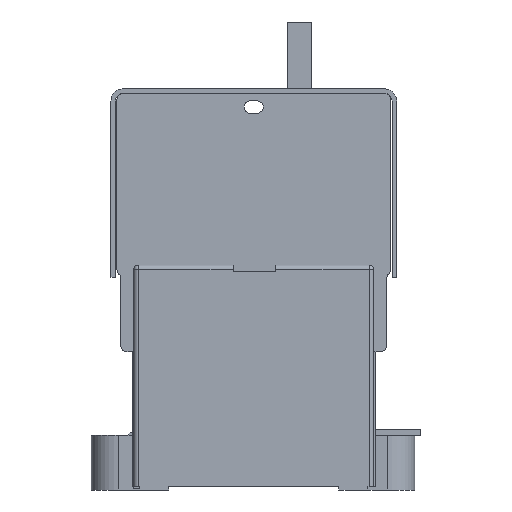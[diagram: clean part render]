
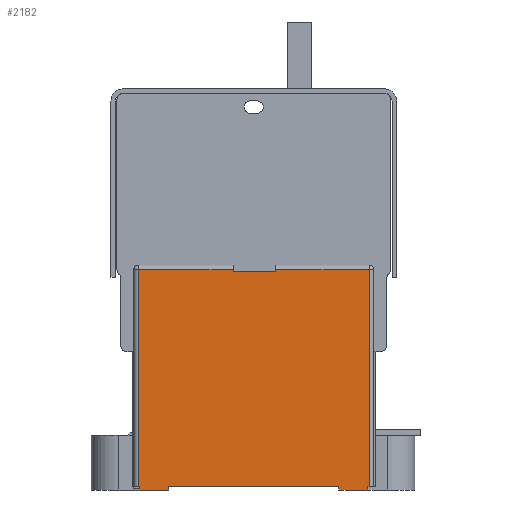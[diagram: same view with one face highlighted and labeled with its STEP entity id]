
A CAD part, left-side view. The second image highlights one B-rep face of the part: STEP entity #2182.
In plain terms, the highlighted planar face has unit normal (-1, 0, 0).
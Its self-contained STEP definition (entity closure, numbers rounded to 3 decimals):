
#810=PLANE('',#23454);
#2182=ADVANCED_FACE('',(#3589),#810,.F.);
#3589=FACE_OUTER_BOUND('',#4877,.T.);
#4877=EDGE_LOOP('',(#15154,#15155,#15156,#15157,#15158,#15159,#15160,#15161,
#15162,#15163,#15164,#15165,#15166,#15167,#15168,#15169));
#6884=LINE('',#35095,#9192);
#6886=LINE('',#35101,#9194);
#6956=LINE('',#35413,#9264);
#6972=LINE('',#35493,#9280);
#7007=LINE('',#35592,#9315);
#7012=LINE('',#35604,#9320);
#7014=LINE('',#35607,#9322);
#7020=LINE('',#35620,#9328);
#7159=LINE('',#35910,#9467);
#7160=LINE('',#35914,#9468);
#7161=LINE('',#35915,#9469);
#7162=LINE('',#35917,#9470);
#7163=LINE('',#35919,#9471);
#7164=LINE('',#35920,#9472);
#7165=LINE('',#35921,#9473);
#7166=LINE('',#35923,#9474);
#9192=VECTOR('',#28391,1.);
#9194=VECTOR('',#28397,1.);
#9264=VECTOR('',#28685,1.);
#9280=VECTOR('',#28797,1.);
#9315=VECTOR('',#28902,1.);
#9320=VECTOR('',#28909,1.);
#9322=VECTOR('',#28913,1.);
#9328=VECTOR('',#28921,1.);
#9467=VECTOR('',#29176,1.);
#9468=VECTOR('',#29181,1.);
#9469=VECTOR('',#29182,1.);
#9470=VECTOR('',#29183,1.);
#9471=VECTOR('',#29184,1.);
#9472=VECTOR('',#29185,1.);
#9473=VECTOR('',#29186,1.);
#9474=VECTOR('',#29187,1.);
#15154=ORIENTED_EDGE('',*,*,#20872,.F.);
#15155=ORIENTED_EDGE('',*,*,#20660,.T.);
#15156=ORIENTED_EDGE('',*,*,#20484,.T.);
#15157=ORIENTED_EDGE('',*,*,#20874,.F.);
#15158=ORIENTED_EDGE('',*,*,#20487,.T.);
#15159=ORIENTED_EDGE('',*,*,#20620,.T.);
#15160=ORIENTED_EDGE('',*,*,#20875,.T.);
#15161=ORIENTED_EDGE('',*,*,#20876,.T.);
#15162=ORIENTED_EDGE('',*,*,#20877,.F.);
#15163=ORIENTED_EDGE('',*,*,#20707,.F.);
#15164=ORIENTED_EDGE('',*,*,#20712,.T.);
#15165=ORIENTED_EDGE('',*,*,#20878,.T.);
#15166=ORIENTED_EDGE('',*,*,#20720,.F.);
#15167=ORIENTED_EDGE('',*,*,#20714,.F.);
#15168=ORIENTED_EDGE('',*,*,#20879,.T.);
#15169=ORIENTED_EDGE('',*,*,#20880,.T.);
#17599=VERTEX_POINT('',#35094);
#17600=VERTEX_POINT('',#35096);
#17602=VERTEX_POINT('',#35102);
#17603=VERTEX_POINT('',#35103);
#17691=VERTEX_POINT('',#35408);
#17692=VERTEX_POINT('',#35412);
#17738=VERTEX_POINT('',#35593);
#17739=VERTEX_POINT('',#35594);
#17743=VERTEX_POINT('',#35603);
#17744=VERTEX_POINT('',#35608);
#17745=VERTEX_POINT('',#35609);
#17748=VERTEX_POINT('',#35617);
#17843=VERTEX_POINT('',#35911);
#17844=VERTEX_POINT('',#35916);
#17845=VERTEX_POINT('',#35918);
#17846=VERTEX_POINT('',#35922);
#20484=EDGE_CURVE('',#17600,#17599,#6884,.T.);
#20487=EDGE_CURVE('',#17602,#17603,#6886,.T.);
#20620=EDGE_CURVE('',#17603,#17692,#6956,.T.);
#20660=EDGE_CURVE('',#17691,#17600,#6972,.T.);
#20707=EDGE_CURVE('',#17738,#17739,#7007,.T.);
#20712=EDGE_CURVE('',#17738,#17743,#7012,.T.);
#20714=EDGE_CURVE('',#17744,#17745,#7014,.T.);
#20720=EDGE_CURVE('',#17745,#17748,#7020,.T.);
#20872=EDGE_CURVE('',#17691,#17843,#7159,.T.);
#20874=EDGE_CURVE('',#17602,#17599,#7160,.T.);
#20875=EDGE_CURVE('',#17692,#17844,#7161,.T.);
#20876=EDGE_CURVE('',#17844,#17845,#7162,.T.);
#20877=EDGE_CURVE('',#17739,#17845,#7163,.T.);
#20878=EDGE_CURVE('',#17743,#17748,#7164,.T.);
#20879=EDGE_CURVE('',#17744,#17846,#7165,.T.);
#20880=EDGE_CURVE('',#17846,#17843,#7166,.T.);
#23454=AXIS2_PLACEMENT_3D('',#35924,#29188,#29189);
#28391=DIRECTION('',(0.,0.,-1.));
#28397=DIRECTION('',(0.,0.,1.));
#28685=DIRECTION('',(0.,1.,0.));
#28797=DIRECTION('',(0.,1.,0.));
#28902=DIRECTION('',(0.,1.,0.));
#28909=DIRECTION('',(0.,0.,1.));
#28913=DIRECTION('',(0.,1.,0.));
#28921=DIRECTION('',(0.,0.,1.));
#29176=DIRECTION('',(0.,0.,-1.));
#29181=DIRECTION('',(0.,-1.,0.));
#29182=DIRECTION('',(0.,0.,-1.));
#29183=DIRECTION('',(0.,-1.,0.));
#29184=DIRECTION('',(0.,0.,1.));
#29185=DIRECTION('',(0.,-1.,0.));
#29186=DIRECTION('',(0.,0.,1.));
#29187=DIRECTION('',(0.,-1.,0.));
#29188=DIRECTION('',(1.,0.,0.));
#29189=DIRECTION('',(0.,0.,-1.));
#35094=CARTESIAN_POINT('',(-69.,-31.985,67.));
#35095=CARTESIAN_POINT('',(-69.,-31.985,69.1));
#35096=CARTESIAN_POINT('',(-69.,-31.985,67.6));
#35101=CARTESIAN_POINT('',(-69.,-17.985,69.1));
#35102=CARTESIAN_POINT('',(-69.,-17.985,67.));
#35103=CARTESIAN_POINT('',(-69.,-17.985,67.6));
#35408=CARTESIAN_POINT('',(-69.,-62.735,67.6));
#35412=CARTESIAN_POINT('',(-69.,13.265,67.6));
#35413=CARTESIAN_POINT('',(-69.,13.265,67.6));
#35493=CARTESIAN_POINT('',(-69.,13.265,67.6));
#35592=CARTESIAN_POINT('',(-69.,3.265,-4.9));
#35593=CARTESIAN_POINT('',(-69.,3.265,-4.9));
#35594=CARTESIAN_POINT('',(-69.,12.765,-4.9));
#35603=CARTESIAN_POINT('',(-69.,3.265,-3.9));
#35604=CARTESIAN_POINT('',(-69.,3.265,-5.9));
#35607=CARTESIAN_POINT('',(-69.,-62.235,-4.9));
#35608=CARTESIAN_POINT('',(-69.,-62.235,-4.9));
#35609=CARTESIAN_POINT('',(-69.,-52.735,-4.9));
#35617=CARTESIAN_POINT('',(-69.,-52.735,-3.9));
#35620=CARTESIAN_POINT('',(-69.,-52.735,-5.9));
#35910=CARTESIAN_POINT('',(-69.,-62.735,69.1));
#35911=CARTESIAN_POINT('',(-69.,-62.735,-3.9));
#35914=CARTESIAN_POINT('',(-69.,12.765,67.));
#35915=CARTESIAN_POINT('',(-69.,13.265,69.1));
#35916=CARTESIAN_POINT('',(-69.,13.265,-3.9));
#35917=CARTESIAN_POINT('',(-69.,-62.235,-3.9));
#35918=CARTESIAN_POINT('',(-69.,12.765,-3.9));
#35919=CARTESIAN_POINT('',(-69.,12.765,-5.9));
#35920=CARTESIAN_POINT('',(-69.,-62.235,-3.9));
#35921=CARTESIAN_POINT('',(-69.,-62.235,-5.9));
#35922=CARTESIAN_POINT('',(-69.,-62.235,-3.9));
#35923=CARTESIAN_POINT('',(-69.,-62.235,-3.9));
#35924=CARTESIAN_POINT('',(-69.,-62.235,69.1));
